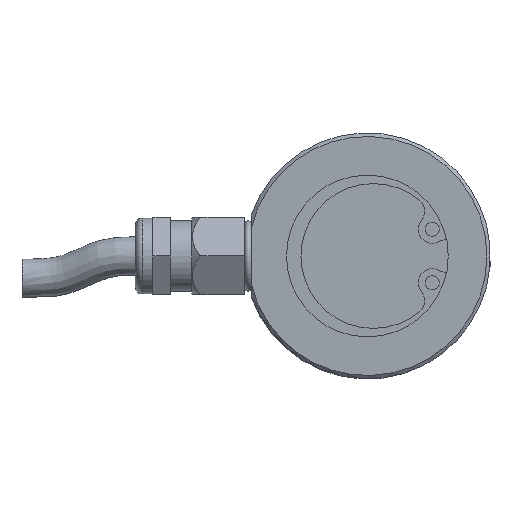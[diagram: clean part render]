
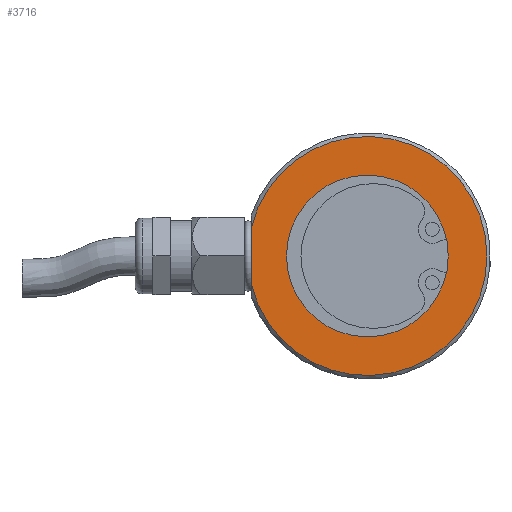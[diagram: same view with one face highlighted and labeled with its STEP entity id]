
A CAD part, left-side view. The second image highlights one B-rep face of the part: STEP entity #3716.
In plain terms, the highlighted planar face has unit normal (-1, 0, 0).
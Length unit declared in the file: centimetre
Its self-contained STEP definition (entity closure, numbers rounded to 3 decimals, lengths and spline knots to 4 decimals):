
#1035=CIRCLE('',#3891,1.7);
#1044=CIRCLE('',#3907,1.15);
#1234=VERTEX_POINT('',#5098);
#1235=VERTEX_POINT('',#5100);
#1248=VERTEX_POINT('',#5138);
#1512=VECTOR('',#4290,1.);
#1720=LINE('',#5099,#1512);
#1974=EDGE_CURVE('',#1235,#1234,#1720,.T.);
#1978=EDGE_CURVE('',#1235,#1234,#1035,.T.);
#1992=EDGE_CURVE('',#1248,#1248,#1044,.T.);
#2477=ORIENTED_EDGE('',*,*,#1974,.T.);
#2478=ORIENTED_EDGE('',*,*,#1978,.F.);
#2479=ORIENTED_EDGE('',*,*,#1992,.T.);
#3222=EDGE_LOOP('',(#2477,#2478));
#3223=EDGE_LOOP('',(#2479));
#3475=FACE_BOUND('',#3222,.T.);
#3476=FACE_BOUND('',#3223,.T.);
#3716=ADVANCED_FACE('',(#3475,#3476),#6184,.F.);
#3891=AXIS2_PLACEMENT_3D('',#5108,#4296,#4297);
#3906=AXIS2_PLACEMENT_3D('',#5136,#4326,$);
#3907=AXIS2_PLACEMENT_3D('',#5137,#4327,#4328);
#4290=DIRECTION('',(0.,0.,-1.));
#4296=DIRECTION('',(1.,0.,0.));
#4297=DIRECTION('',(0.,0.,1.7));
#4326=DIRECTION('',(1.,0.,0.));
#4327=DIRECTION('',(1.,0.,0.));
#4328=DIRECTION('',(0.,0.,-1.15));
#5098=CARTESIAN_POINT('',(-1.3,1.65,-0.4093));
#5099=CARTESIAN_POINT('',(-1.3,1.65,-0.0036));
#5100=CARTESIAN_POINT('',(-1.3,1.65,0.4093));
#5108=CARTESIAN_POINT('',(-1.3,0.,0.));
#5136=CARTESIAN_POINT('',(-1.3,0.,0.));
#5137=CARTESIAN_POINT('',(-1.3,0.,0.));
#5138=CARTESIAN_POINT('',(-1.3,0.,-1.15));
#6184=PLANE('',#3906);
